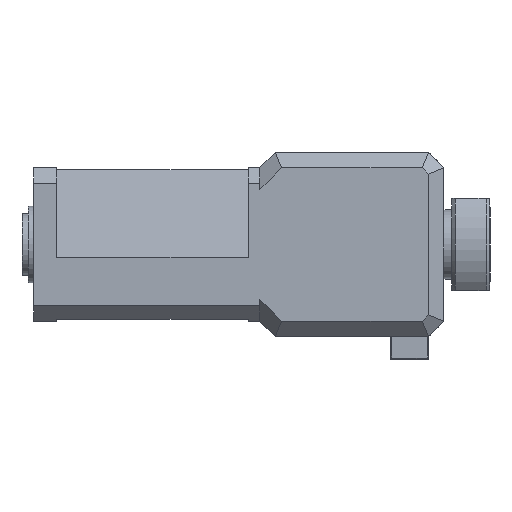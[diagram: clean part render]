
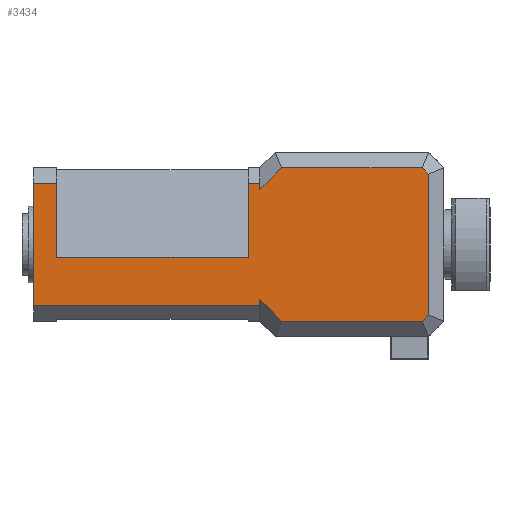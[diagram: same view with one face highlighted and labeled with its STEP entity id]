
A CAD part, front view. The second image highlights one B-rep face of the part: STEP entity #3434.
In plain terms, the highlighted planar face has unit normal (0, -1, 0).
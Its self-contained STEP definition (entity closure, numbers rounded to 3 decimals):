
#65 = CARTESIAN_POINT ( 'NONE',  ( -2.264, -4.74, 990. ) ) ;
#135 = VERTEX_POINT ( 'NONE', #1396 ) ;
#214 = CARTESIAN_POINT ( 'NONE',  ( -24.936, -4.74, 998.337 ) ) ;
#219 = VERTEX_POINT ( 'NONE', #2952 ) ;
#231 = CARTESIAN_POINT ( 'NONE',  ( -20.607, -4.74, 1010. ) ) ;
#283 = VECTOR ( 'NONE', #1157, 1000. ) ;
#301 = CARTESIAN_POINT ( 'NONE',  ( -24.936, -4.74, 1000. ) ) ;
#393 = EDGE_CURVE ( 'NONE', #135, #1969, #1867, .T. ) ;
#394 = VECTOR ( 'NONE', #5227, 1000. ) ;
#404 = VECTOR ( 'NONE', #1972, 1000. ) ;
#434 = LINE ( 'NONE', #65, #3927 ) ;
#465 = CARTESIAN_POINT ( 'NONE',  ( -2.264, -4.74, 1010. ) ) ;
#511 = EDGE_LOOP ( 'NONE', ( #4882, #552, #4260, #2374, #3757, #3427, #2257, #1960, #5999, #1884, #5131, #3841, #4404, #1827, #2724, #4297 ) ) ;
#552 = ORIENTED_EDGE ( 'NONE', *, *, #623, .T. ) ;
#556 = CARTESIAN_POINT ( 'NONE',  ( -11.436, -4.74, 990. ) ) ;
#561 = CARTESIAN_POINT ( 'NONE',  ( -24.936, -4.74, 1008. ) ) ;
#623 = EDGE_CURVE ( 'NONE', #1828, #2464, #918, .T. ) ;
#625 = LINE ( 'NONE', #5501, #283 ) ;
#661 = LINE ( 'NONE', #2263, #2320 ) ;
#743 = CARTESIAN_POINT ( 'NONE',  ( -23.436, -4.74, 1007.172 ) ) ;
#825 = CARTESIAN_POINT ( 'NONE',  ( -2.264, -4.74, 990. ) ) ;
#835 = LINE ( 'NONE', #2244, #5244 ) ;
#895 = VECTOR ( 'NONE', #5124, 1000. ) ;
#918 = LINE ( 'NONE', #301, #3946 ) ;
#928 = CARTESIAN_POINT ( 'NONE',  ( -49.936, -4.74, 1000. ) ) ;
#1157 = DIRECTION ( 'NONE',  ( 0., 0., -1. ) ) ;
#1361 = LINE ( 'NONE', #1927, #1802 ) ;
#1396 = CARTESIAN_POINT ( 'NONE',  ( -52.936, -4.74, 992. ) ) ;
#1498 = LINE ( 'NONE', #556, #3443 ) ;
#1499 = DIRECTION ( 'NONE',  ( 0., 0., 1. ) ) ;
#1513 = VECTOR ( 'NONE', #4716, 1000. ) ;
#1516 = CARTESIAN_POINT ( 'NONE',  ( -1.436, -4.74, 1000. ) ) ;
#1556 = DIRECTION ( 'NONE',  ( 1., 0., 0. ) ) ;
#1786 = VERTEX_POINT ( 'NONE', #825 ) ;
#1799 = CARTESIAN_POINT ( 'NONE',  ( -23.436, -4.74, 1008. ) ) ;
#1802 = VECTOR ( 'NONE', #2386, 1000. ) ;
#1827 = ORIENTED_EDGE ( 'NONE', *, *, #3692, .T. ) ;
#1828 = VERTEX_POINT ( 'NONE', #561 ) ;
#1867 = LINE ( 'NONE', #1895, #1513 ) ;
#1884 = ORIENTED_EDGE ( 'NONE', *, *, #2375, .T. ) ;
#1895 = CARTESIAN_POINT ( 'NONE',  ( -11.436, -4.74, 992. ) ) ;
#1922 = FACE_OUTER_BOUND ( 'NONE', #511, .T. ) ;
#1927 = CARTESIAN_POINT ( 'NONE',  ( -23.436, -4.74, 1000. ) ) ;
#1960 = ORIENTED_EDGE ( 'NONE', *, *, #2602, .F. ) ;
#1969 = VERTEX_POINT ( 'NONE', #4614 ) ;
#1972 = DIRECTION ( 'NONE',  ( 0., 0., 1. ) ) ;
#2099 = VECTOR ( 'NONE', #4071, 1000. ) ;
#2145 = VERTEX_POINT ( 'NONE', #3236 ) ;
#2147 = CARTESIAN_POINT ( 'NONE',  ( -23.436, -4.74, 992.828 ) ) ;
#2179 = VERTEX_POINT ( 'NONE', #1799 ) ;
#2228 = VECTOR ( 'NONE', #3433, 1000. ) ;
#2240 = DIRECTION ( 'NONE',  ( 0., 0., -1. ) ) ;
#2244 = CARTESIAN_POINT ( 'NONE',  ( -1.436, -4.74, 1009.172 ) ) ;
#2257 = ORIENTED_EDGE ( 'NONE', *, *, #393, .T. ) ;
#2263 = CARTESIAN_POINT ( 'NONE',  ( -11.436, -4.74, 998.337 ) ) ;
#2313 = VERTEX_POINT ( 'NONE', #465 ) ;
#2320 = VECTOR ( 'NONE', #5633, 1000. ) ;
#2321 = VECTOR ( 'NONE', #4870, 1000. ) ;
#2360 = VERTEX_POINT ( 'NONE', #5907 ) ;
#2371 = DIRECTION ( 'NONE',  ( 0.707, 0., 0.707 ) ) ;
#2374 = ORIENTED_EDGE ( 'NONE', *, *, #4028, .T. ) ;
#2375 = EDGE_CURVE ( 'NONE', #3316, #1786, #1498, .T. ) ;
#2377 = CARTESIAN_POINT ( 'NONE',  ( -23.436, -4.74, 992.828 ) ) ;
#2386 = DIRECTION ( 'NONE',  ( 0., 0., -1. ) ) ;
#2464 = VERTEX_POINT ( 'NONE', #214 ) ;
#2468 = LINE ( 'NONE', #3495, #2228 ) ;
#2602 = EDGE_CURVE ( 'NONE', #5205, #1969, #5596, .T. ) ;
#2707 = LINE ( 'NONE', #231, #895 ) ;
#2724 = ORIENTED_EDGE ( 'NONE', *, *, #3878, .T. ) ;
#2914 = AXIS2_PLACEMENT_3D ( 'NONE', #4441, #3001, #1499 ) ;
#2943 = EDGE_CURVE ( 'NONE', #2179, #4675, #1361, .T. ) ;
#2952 = CARTESIAN_POINT ( 'NONE',  ( -1.436, -4.74, 990.828 ) ) ;
#3001 = DIRECTION ( 'NONE',  ( 0., 1., 0. ) ) ;
#3085 = DIRECTION ( 'NONE',  ( 0., 0., 1. ) ) ;
#3103 = CARTESIAN_POINT ( 'NONE',  ( -1.436, -4.74, 1009.172 ) ) ;
#3146 = EDGE_CURVE ( 'NONE', #2464, #5046, #661, .T. ) ;
#3196 = CARTESIAN_POINT ( 'NONE',  ( -23.436, -4.74, 1000. ) ) ;
#3236 = CARTESIAN_POINT ( 'NONE',  ( -49.936, -4.74, 1008. ) ) ;
#3307 = CARTESIAN_POINT ( 'NONE',  ( -52.936, -4.74, 1008. ) ) ;
#3316 = VERTEX_POINT ( 'NONE', #4513 ) ;
#3336 = CARTESIAN_POINT ( 'NONE',  ( -11.436, -4.74, 1008. ) ) ;
#3405 = VECTOR ( 'NONE', #5111, 1000. ) ;
#3427 = ORIENTED_EDGE ( 'NONE', *, *, #4941, .T. ) ;
#3433 = DIRECTION ( 'NONE',  ( 1., 0., 0. ) ) ;
#3434 = ADVANCED_FACE ( 'NONE', ( #1922 ), #4209, .F. ) ;
#3443 = VECTOR ( 'NONE', #1556, 1000. ) ;
#3479 = CARTESIAN_POINT ( 'NONE',  ( -11.436, -4.74, 1010. ) ) ;
#3480 = EDGE_CURVE ( 'NONE', #1828, #2179, #2468, .T. ) ;
#3495 = CARTESIAN_POINT ( 'NONE',  ( -52.936, -4.74, 1008. ) ) ;
#3692 = EDGE_CURVE ( 'NONE', #2313, #2360, #5798, .T. ) ;
#3718 = LINE ( 'NONE', #3336, #394 ) ;
#3757 = ORIENTED_EDGE ( 'NONE', *, *, #6094, .T. ) ;
#3841 = ORIENTED_EDGE ( 'NONE', *, *, #4573, .T. ) ;
#3878 = EDGE_CURVE ( 'NONE', #2360, #4675, #2707, .T. ) ;
#3927 = VECTOR ( 'NONE', #2371, 1000. ) ;
#3946 = VECTOR ( 'NONE', #2240, 1000. ) ;
#4028 = EDGE_CURVE ( 'NONE', #5046, #2145, #5835, .T. ) ;
#4071 = DIRECTION ( 'NONE',  ( 0.707, 0., -0.707 ) ) ;
#4156 = EDGE_CURVE ( 'NONE', #1786, #219, #434, .T. ) ;
#4209 = PLANE ( 'NONE',  #2914 ) ;
#4260 = ORIENTED_EDGE ( 'NONE', *, *, #3146, .T. ) ;
#4297 = ORIENTED_EDGE ( 'NONE', *, *, #2943, .F. ) ;
#4364 = EDGE_CURVE ( 'NONE', #4945, #2313, #835, .T. ) ;
#4404 = ORIENTED_EDGE ( 'NONE', *, *, #4364, .T. ) ;
#4441 = CARTESIAN_POINT ( 'NONE',  ( -11.436, -4.74, 1000. ) ) ;
#4513 = CARTESIAN_POINT ( 'NONE',  ( -20.607, -4.74, 990. ) ) ;
#4573 = EDGE_CURVE ( 'NONE', #219, #4945, #5445, .T. ) ;
#4614 = CARTESIAN_POINT ( 'NONE',  ( -23.436, -4.74, 992. ) ) ;
#4675 = VERTEX_POINT ( 'NONE', #743 ) ;
#4716 = DIRECTION ( 'NONE',  ( 1., 0., 0. ) ) ;
#4853 = CARTESIAN_POINT ( 'NONE',  ( -49.936, -4.74, 998.337 ) ) ;
#4870 = DIRECTION ( 'NONE',  ( -1., 0., 0. ) ) ;
#4882 = ORIENTED_EDGE ( 'NONE', *, *, #3480, .F. ) ;
#4941 = EDGE_CURVE ( 'NONE', #6080, #135, #625, .T. ) ;
#4945 = VERTEX_POINT ( 'NONE', #3103 ) ;
#4947 = LINE ( 'NONE', #2147, #2099 ) ;
#5046 = VERTEX_POINT ( 'NONE', #4853 ) ;
#5111 = DIRECTION ( 'NONE',  ( 0., 0., -1. ) ) ;
#5124 = DIRECTION ( 'NONE',  ( -0.707, 0., -0.707 ) ) ;
#5131 = ORIENTED_EDGE ( 'NONE', *, *, #4156, .T. ) ;
#5205 = VERTEX_POINT ( 'NONE', #2377 ) ;
#5227 = DIRECTION ( 'NONE',  ( -1., 0., 0. ) ) ;
#5244 = VECTOR ( 'NONE', #5557, 1000. ) ;
#5301 = EDGE_CURVE ( 'NONE', #5205, #3316, #4947, .T. ) ;
#5445 = LINE ( 'NONE', #1516, #6162 ) ;
#5501 = CARTESIAN_POINT ( 'NONE',  ( -52.936, -4.74, 1000. ) ) ;
#5557 = DIRECTION ( 'NONE',  ( -0.707, 0., 0.707 ) ) ;
#5596 = LINE ( 'NONE', #3196, #3405 ) ;
#5633 = DIRECTION ( 'NONE',  ( -1., 0., 0. ) ) ;
#5798 = LINE ( 'NONE', #3479, #2321 ) ;
#5835 = LINE ( 'NONE', #928, #404 ) ;
#5907 = CARTESIAN_POINT ( 'NONE',  ( -20.607, -4.74, 1010. ) ) ;
#5999 = ORIENTED_EDGE ( 'NONE', *, *, #5301, .T. ) ;
#6080 = VERTEX_POINT ( 'NONE', #3307 ) ;
#6094 = EDGE_CURVE ( 'NONE', #2145, #6080, #3718, .T. ) ;
#6162 = VECTOR ( 'NONE', #3085, 1000. ) ;
